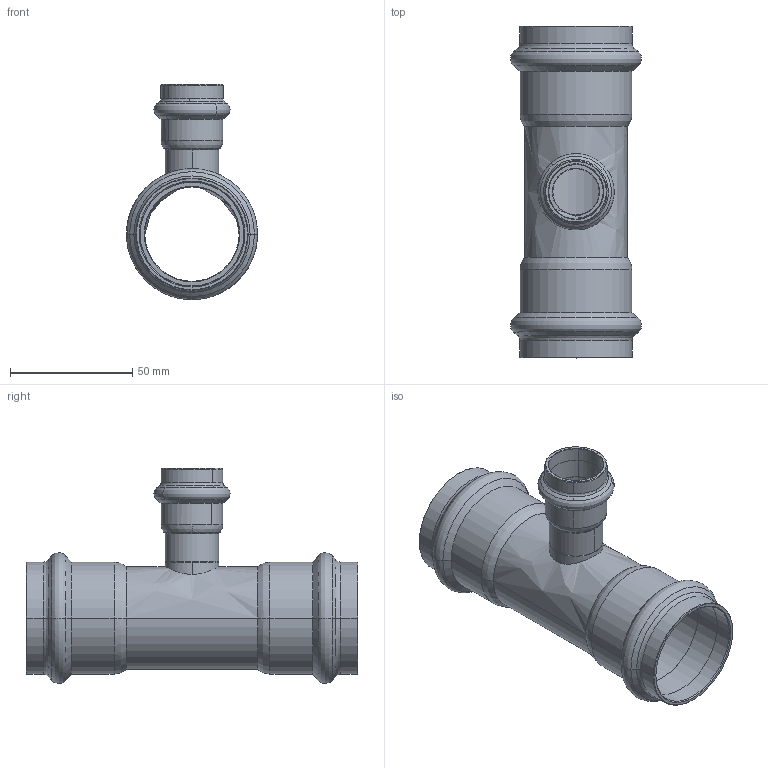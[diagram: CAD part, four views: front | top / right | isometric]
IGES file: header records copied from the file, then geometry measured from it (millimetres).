
Start section: Elysium IGES Interface
Global section: file name: C:\3d modellen sudo\C-Pr VP\SP8130RV\8130RVW422242.igs; native system: CoCreate Modeling 17.00A  17-Jun-2010; preprocessor: CoCreate IGES_3D V2.2; author: Unknown; organization: Unknown; date: 20130131.144317; units: millimetre
Bounding box: 53.61 x 135.73 x 88.03 mm (x, y, z)
Volume: 44875.4 mm3; surface area: 44880.1 mm2
Topology: 1 solids, 1 shells, 128 faces, 292 edges, 168 vertices
Faces by surface type: bspline 128
